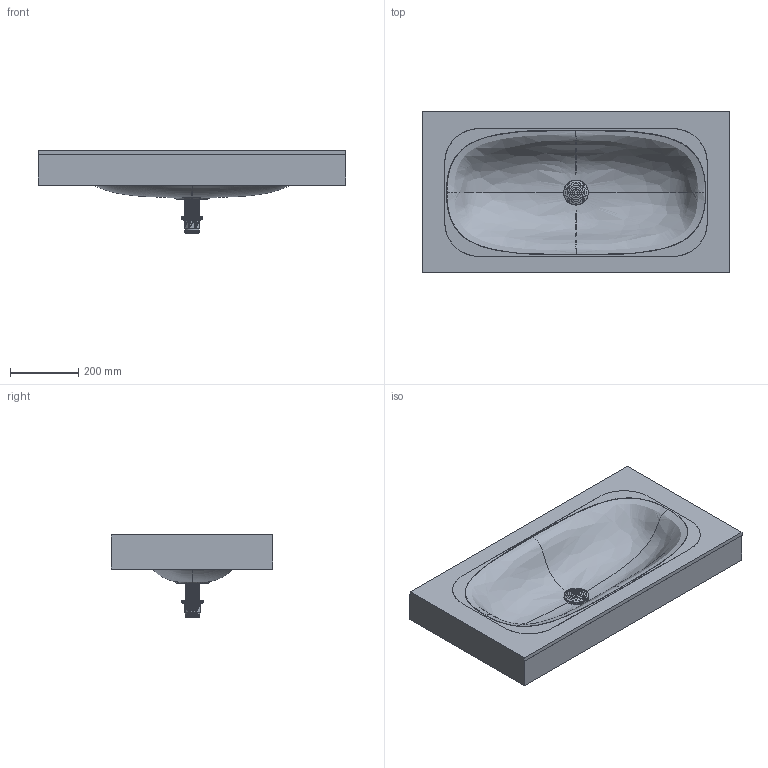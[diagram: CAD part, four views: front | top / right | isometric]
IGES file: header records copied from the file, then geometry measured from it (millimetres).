
Start section: Data from Parasolid IGES Translator 19.0.9, Copyright(c) 2006 Siemens PL M Software. All Rights Reserved.
Global section: file name: noorth-top-H 12 D 47,3 W 90_4200.igs; native system: By Siemens PLM Incorporated; preprocessor: XPlus GENERIC/IGES 19.0.9; author: Noname; organization: Noname; date: 20210914.114420; units: metre
Bounding box: 900 x 473.2 x 240.99 mm (x, y, z)
Volume: 4094384 mm3; surface area: 1537656 mm2
Topology: 1 solids, 1 shells, 11714 faces, 36015 edges, 35957 vertices
Faces by surface type: extrusion 11631, plane 32, cylinder 28, bspline 16, revolution 7
